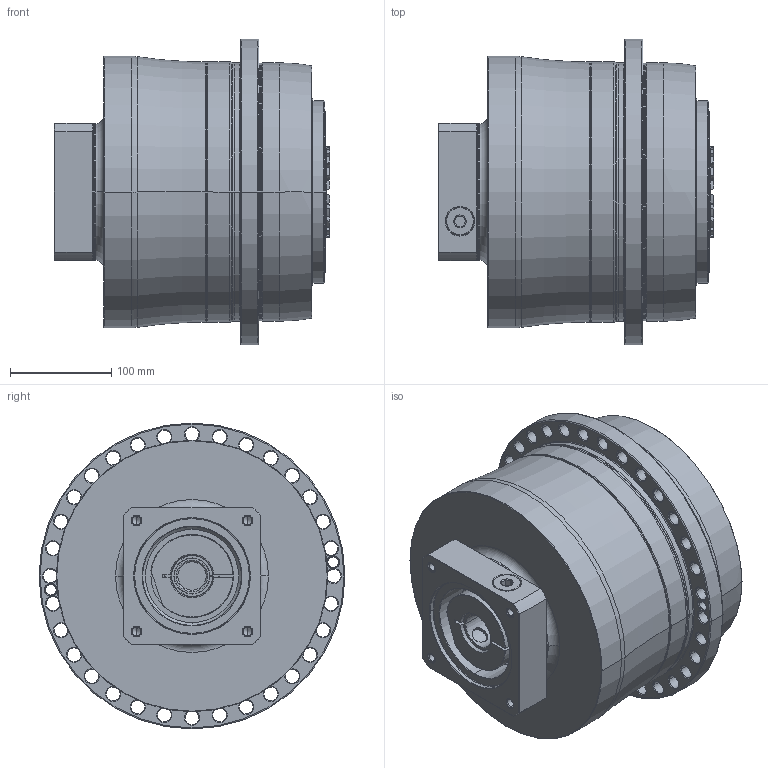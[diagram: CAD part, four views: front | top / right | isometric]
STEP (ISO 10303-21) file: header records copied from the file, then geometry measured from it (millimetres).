
FILE_DESCRIPTION((''),'2;1');
FILE_NAME('APC255_2ST_35-P0409800201_ASM','2018-06-29T',('d01226'),(''),'PRO/ENGINEER BY PARAMETRIC TECHNOLOGY CORPORATION, 2008410','PRO/ENGINEER BY PARAMETRIC TECHNOLOGY CORPORATION, 2008410','');
FILE_SCHEMA(('CONFIG_CONTROL_DESIGN'));
Length unit declared in the file: millimetre
Products named in the file (9): P0278701003; P0359770103; P1317710101; P0503800012; P0912601001; P1211700001; P0409800201; 21711422019; APC255_2ST_35-P0409800201_ASM
Assembly tree (8 placements, depth 2):
  APC255_2ST_35-P0409800201_ASM
    P0278701003
    P0359770103
    P1317710101
    P0503800012
    P0912601001
    P1211700001
    P0409800201
    21711422019
Bounding box: 272.1 x 302 x 302 mm (x, y, z)
Volume: 10911786.4 mm3; surface area: 756091.5 mm2
Topology: 9 solids, 21 shells, 767 faces, 1881 edges, 1147 vertices
Faces by surface type: cone 274, cylinder 236, plane 131, torus 112, bspline 14
Entity records: 28095 total; most frequent: CARTESIAN_POINT 9504, DIRECTION 4165, ORIENTED_EDGE 3676, EDGE_CURVE 1863, AXIS2_PLACEMENT_3D 1811, VERTEX_POINT 1147, CIRCLE 1029, EDGE_LOOP 884
